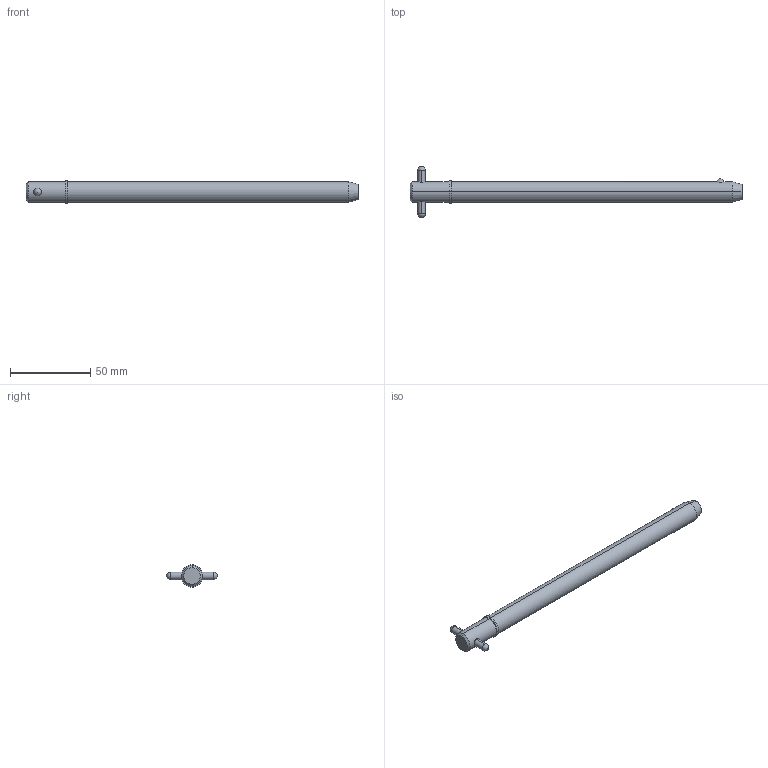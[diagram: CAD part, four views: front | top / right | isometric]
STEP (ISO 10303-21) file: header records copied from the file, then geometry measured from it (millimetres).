
FILE_DESCRIPTION (( 'STEP AP203' ), '1' );
FILE_NAME ('33018.W5065.step', '2024-11-19T17:15:58', ( '' ), ( '' ), 'SwSTEP 2.0', 'SolidWorks 2019', '' );
FILE_SCHEMA (( 'CONFIG_CONTROL_DESIGN' ));
Length unit declared in the file: millimetre
Products named in the file (3): 33018.W5065; Part1_33018.W5065; Part2_33018.W5065
Assembly tree (2 placements, depth 2):
  33018.W5065
    Part1_33018.W5065
    Part2_33018.W5065
Bounding box: 206.68 x 31.75 x 13.97 mm (x, y, z)
Volume: 26348.3 mm3; surface area: 9082.4 mm2
Topology: 2 solids, 2 shells, 22 faces, 47 edges, 30 vertices
Faces by surface type: cylinder 10, sphere 4, cone 4, plane 4
Entity records: 1043 total; most frequent: CARTESIAN_POINT 286, DIRECTION 110, ORIENTED_EDGE 82, AXIS2_PLACEMENT_3D 48, EDGE_CURVE 41, EDGE_LOOP 27, VERTEX_POINT 26, PERSON_AND_ORGANIZATION 26
